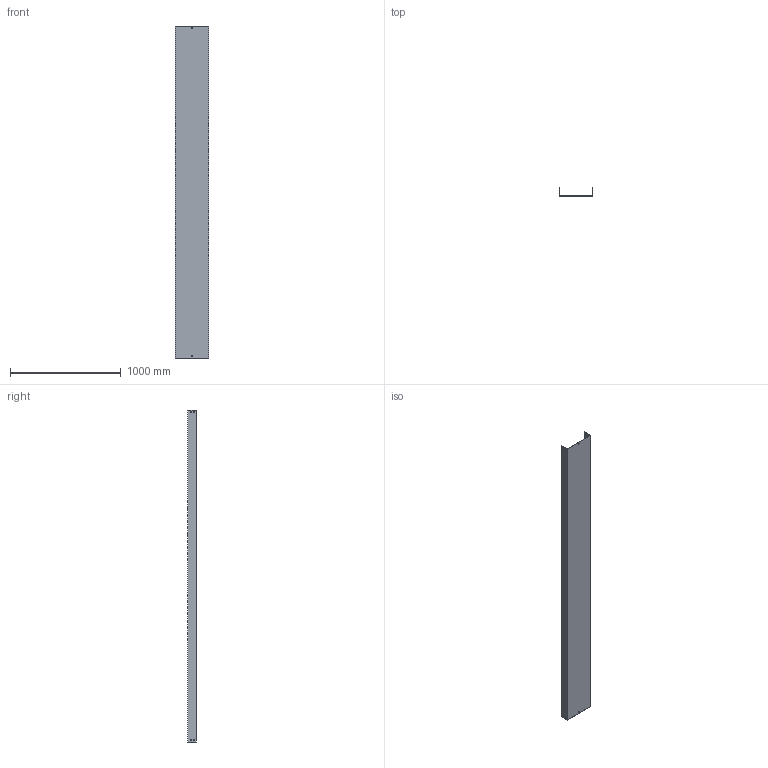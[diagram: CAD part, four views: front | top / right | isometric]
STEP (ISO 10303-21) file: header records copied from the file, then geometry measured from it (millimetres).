
FILE_DESCRIPTION (( 'STEP AP214' ), '1' );
FILE_NAME ('03B3C300.step', '2025-02-21T10:22:41', ( '' ), ( '' ), 'SwSTEP 2.0', 'SolidWorks 2023', '' );
FILE_SCHEMA (( 'AUTOMOTIVE_DESIGN' ));
Length unit declared in the file: millimetre
Products named in the file (1): 03B3C300
Bounding box: 304 x 79 x 3000 mm (x, y, z)
Volume: 4775130.5 mm3; surface area: 2754000 mm2
Topology: 1 solids, 1 shells, 50 faces, 144 edges, 96 vertices
Faces by surface type: plane 50
Entity records: 1671 total; most frequent: CARTESIAN_POINT 291, ORIENTED_EDGE 288, DIRECTION 246, LINE 144, EDGE_CURVE 144, VECTOR 144, VERTEX_POINT 96, EDGE_LOOP 70
